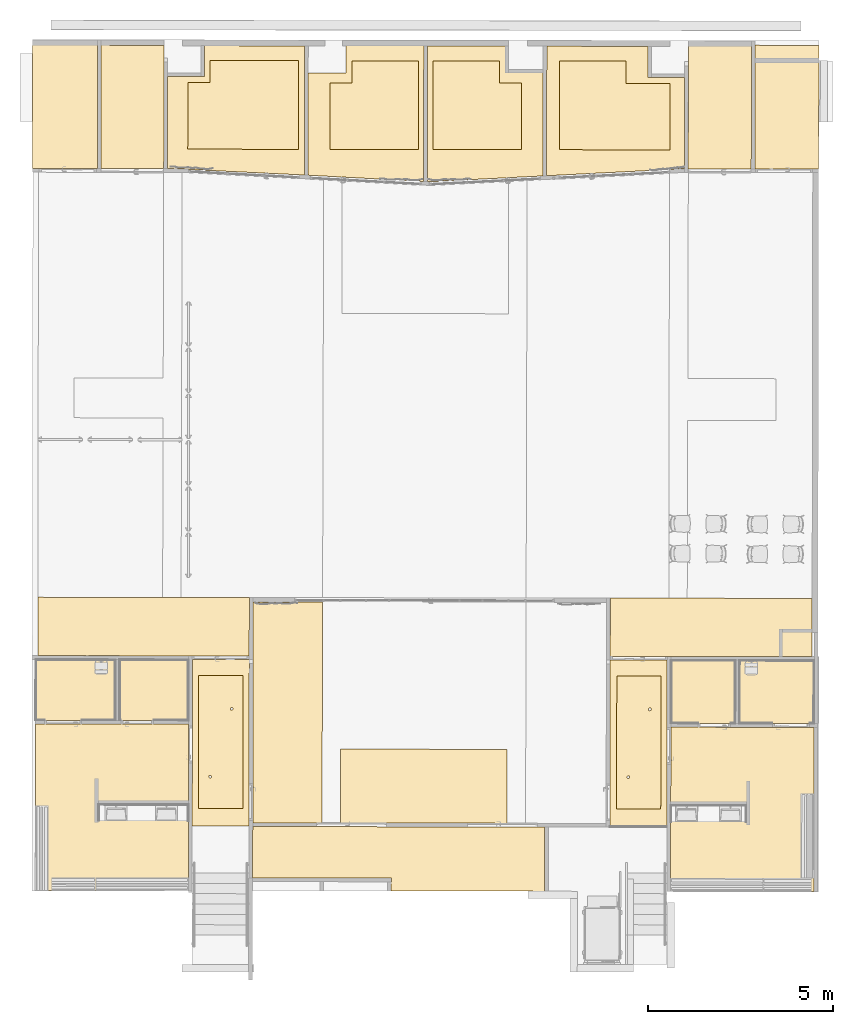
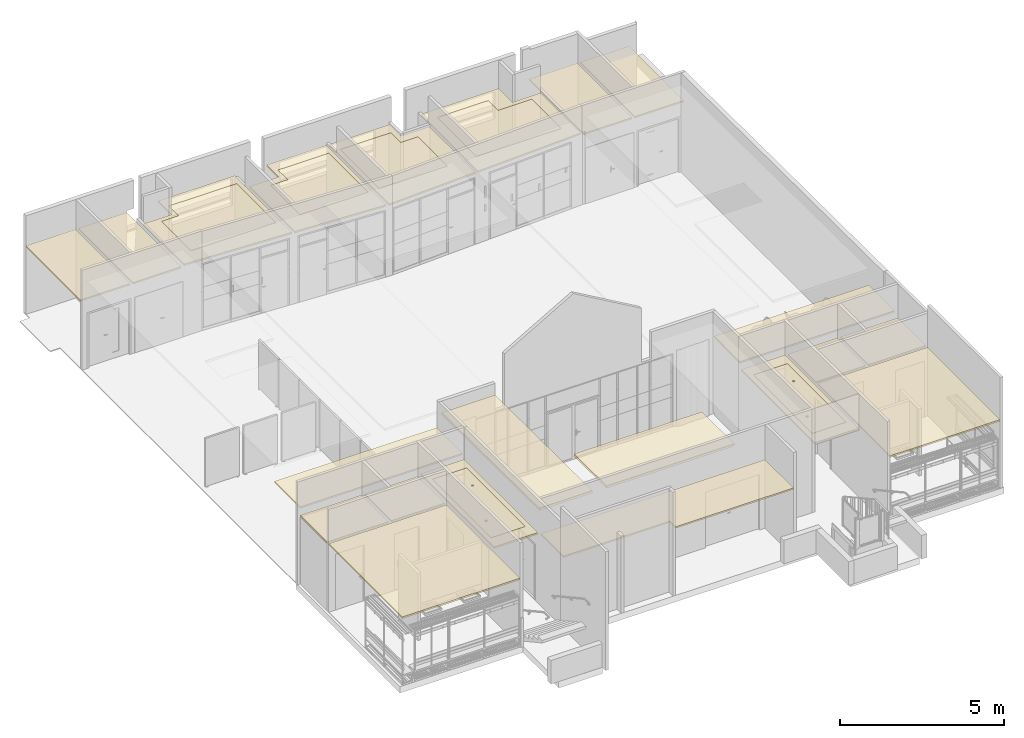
# One storey, part 29 of 43: 23 coverings.
"""IFC2X3 building model written with IfcOpenShell, lengths in metres."""

import ifcopenshell
import ifcopenshell.guid

model = None  # the IFC model being written
_history = None  # IfcOwnerHistory: only IFC2X3 demands one
_inside = {}  # id of a spatial element -> (the spatial element, [elements in it])
_under = {}  # id of a project, library or spatial element -> (it, [spatial elements below it])
_declared = {}  # id of a project -> (the project, [libraries it declares])
_typed = {}  # id of a type object -> (the type object, [elements of that type])
_made_of = {}  # id of a material, layer set ... -> (it, [elements and type objects made of it])


def new_model(schema):
    """Start an empty IFC model of exactly this schema.

    Asked for "IFC4X3", IfcOpenShell would pick the latest addendum, in which some entities
    have other attributes; the version numbers below select the first issue.
    IFC2X3 requires an IfcOwnerHistory on every rooted entity: one is made here for all.
    """
    global model, _history
    if schema == "IFC4X3":
        model = ifcopenshell.file(schema_version=(4, 3, 0, 0))
    else:
        model = ifcopenshell.file(schema=schema)
    _inside.clear()
    _under.clear()
    _declared.clear()
    _typed.clear()
    _made_of.clear()
    _history = None
    if model.schema == "IFC2X3":
        org = make("IfcOrganization", Name="unknown")
        user = make(
            "IfcPersonAndOrganization",
            ThePerson=make("IfcPerson", FamilyName="unknown"),
            TheOrganization=org,
        )
        app = make(
            "IfcApplication",
            ApplicationDeveloper=org,
            Version="unknown",
            ApplicationFullName="unknown",
            ApplicationIdentifier="unknown",
        )
        _history = make(
            "IfcOwnerHistory",
            OwningUser=user,
            OwningApplication=app,
            ChangeAction="ADDED",
            CreationDate=0,
        )
    return model


def make(cls, **values):
    """One entity of the class cls with the attributes given. An attribute that is None is left unset."""
    return model.create_entity(
        cls, **{name: value for name, value in values.items() if value is not None}
    )


def entity(cls, *values):
    """Any entity or typed value of the class cls, its attributes in the order of the schema. None: left unset."""
    e = model.create_entity(cls)
    for i, value in enumerate(values):
        if value is not None:
            e[i] = value
    return e


def rooted(cls, **values):
    """An entity with a GlobalId (a new one), such as an element, a storey or a relation."""
    return make(cls, GlobalId=ifcopenshell.guid.new(), OwnerHistory=_history, **values)


def si_unit(unit_type, name, prefix=None):
    """IfcSIUnit, for example si_unit("LENGTHUNIT", "METRE", prefix="MILLI")."""
    return make("IfcSIUnit", UnitType=unit_type, Prefix=prefix, Name=name)


def converted_unit(unit_type, name, factor, base, dimensions=None, offset=None):
    """IfcConversionBasedUnit, such as the inch: factor (a typed value) times the base unit."""
    return make(
        "IfcConversionBasedUnit"
        if offset is None
        else "IfcConversionBasedUnitWithOffset",
        ConversionOffset=offset,
        Dimensions=None
        if dimensions is None
        else entity("IfcDimensionalExponents", *dimensions),
        UnitType=unit_type,
        Name=name,
        ConversionFactor=make(
            "IfcMeasureWithUnit", ValueComponent=factor, UnitComponent=base
        ),
    )


def derived_unit(unit_type, elements):
    """IfcDerivedUnit: a product of units, each with its exponent."""
    return make(
        "IfcDerivedUnit",
        Elements=[
            make("IfcDerivedUnitElement", Unit=unit, Exponent=power)
            for unit, power in elements
        ],
        UnitType=unit_type,
    )


def assignment(units):
    """IfcUnitAssignment: the units of a project."""
    return None if units is None else make("IfcUnitAssignment", Units=units)


def point(xyz):
    """IfcCartesianPoint."""
    return None if xyz is None else make("IfcCartesianPoint", Coordinates=xyz)


def direction(xyz):
    """IfcDirection."""
    return None if xyz is None else make("IfcDirection", DirectionRatios=xyz)


def frame(location, z_axis=None, x_axis=None):
    """IfcAxis2Placement3D, a coordinate frame: its origin and axes. An axis left out is left unset."""
    return make(
        "IfcAxis2Placement3D",
        Location=point(location),
        Axis=direction(z_axis),
        RefDirection=direction(x_axis),
    )


def frame_2d(location, x_axis=None):
    """IfcAxis2Placement2D, a coordinate frame in the plane: its origin and x axis."""
    return make(
        "IfcAxis2Placement2D", Location=point(location), RefDirection=direction(x_axis)
    )


def origin():
    """The frame at (0, 0, 0) with its axes left unset."""
    return frame((0.0, 0.0, 0.0))


def origin_2d_with_axis():
    """The frame at (0, 0) in the plane with the x axis (1, 0) written out."""
    return frame_2d((0.0, 0.0), x_axis=(1.0, 0.0))


def place(relative_to, where):
    """IfcLocalPlacement: puts the frame where relative to a parent placement (None: the world)."""
    return make(
        "IfcLocalPlacement", PlacementRelTo=relative_to, RelativePlacement=where
    )


def context(
    kind, dimensions, precision=None, world=None, true_north=None, identifier=None
):
    """IfcGeometricRepresentationContext, for example the 3D "Model" context."""
    return make(
        "IfcGeometricRepresentationContext",
        ContextIdentifier=identifier,
        ContextType=kind,
        CoordinateSpaceDimension=dimensions,
        Precision=precision,
        WorldCoordinateSystem=world,
        TrueNorth=true_north,
    )


def subcontext(parent, identifier, kind, view, scale=None):
    """IfcGeometricRepresentationSubContext, for example "Body" below "Model"."""
    return make(
        "IfcGeometricRepresentationSubContext",
        ContextIdentifier=identifier,
        ContextType=kind,
        ParentContext=parent,
        TargetScale=scale,
        TargetView=view,
    )


def project(units=None, contexts=None):
    """IfcProject with its units and contexts."""
    return rooted(
        "IfcProject",
        Name="project",
        RepresentationContexts=contexts,
        UnitsInContext=assignment(units),
    )


def spatial(cls, under=None, at=None, **own):
    """A site, building, storey or space (cls), placed at a placement, below another one or the project."""
    s = rooted(cls, ObjectPlacement=at, **own)
    if under is not None:
        _under.setdefault(under.id(), (under, []))[1].append(s)
    return s


def polyline(points):
    """IfcPolyline through the points."""
    return make("IfcPolyline", Points=[point(p) for p in points])


def circle_curve(where, radius):
    """IfcCircle in the frame where."""
    return make("IfcCircle", Position=where, Radius=radius)


def parameter(value):
    """IfcParameterValue: where a trimmed curve begins or ends, as a parameter of its basis curve."""
    return model.create_entity("IfcParameterValue", value)


def trimmed(basis, trim1, trim2, sense, master):
    """IfcTrimmedCurve: the piece of a basis curve between two trims."""
    return make(
        "IfcTrimmedCurve",
        BasisCurve=basis,
        Trim1=trim1,
        Trim2=trim2,
        SenseAgreement=sense,
        MasterRepresentation=master,
    )


def segment(curve, same_sense, transition):
    """IfcCompositeCurveSegment."""
    return make(
        "IfcCompositeCurveSegment",
        Transition=transition,
        SameSense=same_sense,
        ParentCurve=curve,
    )


def composite_curve(segments, self_intersect=None):
    """IfcCompositeCurve: segments joined end to end."""
    return make("IfcCompositeCurve", Segments=segments, SelfIntersect=self_intersect)


def profile(cls, at=None, kind="AREA", **sizes):
    """A parametric profile (cls). Its sizes go by their IFC names, for example OverallWidth=200.0."""
    return make(cls, ProfileType=kind, Position=at, **sizes)


def rectangle(**sizes):
    """IfcRectangleProfileDef."""
    return profile("IfcRectangleProfileDef", **sizes)


def outline(outer, holes=None, kind="AREA"):
    """IfcArbitraryClosedProfileDef: a profile drawn as a closed curve; with holes, ...WithVoids."""
    if holes is None:
        return make("IfcArbitraryClosedProfileDef", ProfileType=kind, OuterCurve=outer)
    return make(
        "IfcArbitraryProfileDefWithVoids",
        ProfileType=kind,
        OuterCurve=outer,
        InnerCurves=holes,
    )


def extrude(swept, where, along, depth):
    """IfcExtrudedAreaSolid: the profile swept, set in the frame where, extruded along a direction by depth."""
    return make(
        "IfcExtrudedAreaSolid",
        SweptArea=swept,
        Position=where,
        ExtrudedDirection=direction(along),
        Depth=depth,
    )


def faces_of(points, faces, orient=None, outer=None):
    """IfcFace entities. A face is a list of loops; a loop is a list of indices into points, from 0.

    orient and outer hold one flag for each loop. By default every Orientation is true, the
    first loop of a face is its IfcFaceOuterBound and the others are IfcFaceBound.
    """
    made = []
    for i, loops in enumerate(faces):
        bounds = []
        for j, loop in enumerate(loops):
            is_outer = j == 0 if outer is None else outer[i][j]
            bounds.append(
                make(
                    "IfcFaceOuterBound" if is_outer else "IfcFaceBound",
                    Bound=make("IfcPolyLoop", Polygon=[points[k] for k in loop]),
                    Orientation=True if orient is None else orient[i][j],
                )
            )
        made.append(make("IfcFace", Bounds=bounds))
    return made


def faceted_brep(points, faces, orient=None, outer=None, voids=None):
    """IfcFacetedBrep: a solid bounded by flat faces; with voids (closed shells), ...WithVoids."""
    shared = [point(p) for p in points]
    hull = make("IfcClosedShell", CfsFaces=faces_of(shared, faces, orient, outer))
    if voids is None:
        return make("IfcFacetedBrep", Outer=hull)
    return make(
        "IfcFacetedBrepWithVoids",
        Outer=hull,
        Voids=[
            make(cls, CfsFaces=faces_of(shared, fs, o, b)) for cls, fs, o, b in voids
        ],
    )


def shape(context_of_items, identifier, shape_type, items):
    """IfcShapeRepresentation: the items that make up one representation, for example the "Body"."""
    return make(
        "IfcShapeRepresentation",
        ContextOfItems=context_of_items,
        RepresentationIdentifier=identifier,
        RepresentationType=shape_type,
        Items=items,
    )


def material(Name=None, Category=None):
    """IfcMaterial."""
    return make("IfcMaterial", Name=Name, Category=Category)


def layer(
    of_material, thickness, ventilated=None, Name=None, Category=None, Priority=None
):
    """IfcMaterialLayer: one layer of a wall or slab, of a material (None: an air gap)."""
    return make(
        "IfcMaterialLayer",
        Material=of_material,
        LayerThickness=thickness,
        IsVentilated=ventilated,
        Name=Name,
        Category=Category,
        Priority=Priority,
    )


def layer_set(layers, Name=None):
    """IfcMaterialLayerSet."""
    return make("IfcMaterialLayerSet", MaterialLayers=layers, LayerSetName=Name)


def layer_usage(for_layer_set, set_direction, sense, offset, extent=None):
    """IfcMaterialLayerSetUsage: how a layer set lies in its element."""
    return make(
        "IfcMaterialLayerSetUsage",
        ForLayerSet=for_layer_set,
        LayerSetDirection=set_direction,
        DirectionSense=sense,
        OffsetFromReferenceLine=offset,
        ReferenceExtent=extent,
    )


def made_of(thing, what):
    """Note that an element or type object is made of a material, layer set ...; save() writes the relation."""
    if what is not None:
        _made_of.setdefault(what.id(), (what, []))[1].append(thing)
    return thing


def type_object(cls, material=None, **own):
    """A type object (cls), such as IfcWallType, which elements share."""
    return made_of(rooted(cls, **own), material)


def element(
    cls,
    number,
    at=None,
    inside=None,
    cuts=None,
    type_object=None,
    material=None,
    context=None,
    identifier="Body",
    shape_type=None,
    held_by="IfcProductDefinitionShape",
    body=None,
    shapes=None,
    **own,
):
    """One element of the class cls, such as IfcWall. Its Tag is "e" and its number.

    at: its placement. inside: the storey or other place that contains it. cuts: it is an
    opening in that element (IfcRelVoidsElement). A single representation is given by context,
    identifier, shape_type and body (its items); several are given by shapes. held_by: the class
    of the entity that holds the representations. save() writes the other relations.
    """
    e = rooted(cls, Tag="e%d" % number, ObjectPlacement=at, **own)
    if body is not None:
        shapes = [shape(context, identifier, shape_type, body)]
    if shapes is not None:
        e.Representation = make(held_by, Representations=shapes)
    if inside is not None:
        _inside.setdefault(inside.id(), (inside, []))[1].append(e)
    if cuts is not None:
        rooted(
            "IfcRelVoidsElement", RelatingBuildingElement=cuts, RelatedOpeningElement=e
        )
    if type_object is not None:
        _typed.setdefault(type_object.id(), (type_object, []))[1].append(e)
    return made_of(e, material)


def aggregate(whole, parts):
    """IfcRelAggregates: a whole, such as a stair, and the parts it consists of."""
    return rooted("IfcRelAggregates", RelatingObject=whole, RelatedObjects=parts)


def save(model, path):
    """Write the relations noted so far, then the file.

    IfcRelAggregates (storeys below a building ...), IfcRelContainedInSpatialStructure (elements
    in a storey), IfcRelDefinesByType, IfcRelAssociatesMaterial and IfcRelDeclares: one each for
    every whole, place, type object, material and project.
    """
    for whole, parts in _under.values():
        aggregate(whole, parts)
    for where, things in _inside.values():
        rooted(
            "IfcRelContainedInSpatialStructure",
            RelatedElements=things,
            RelatingStructure=where,
        )
    for kind, things in _typed.values():
        rooted("IfcRelDefinesByType", RelatedObjects=things, RelatingType=kind)
    for what, things in _made_of.values():
        rooted("IfcRelAssociatesMaterial", RelatedObjects=things, RelatingMaterial=what)
    for by, libraries in _declared.values():
        rooted("IfcRelDeclares", RelatingContext=by, RelatedDefinitions=libraries)
    model.write(path)


model = new_model("IFC2X3")

# Units and contexts
model_context = context("Model", 3, precision=1e-05, world=origin(), true_north=direction((6.123233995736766e-17, 1.0)))
body_context = subcontext(model_context, "Body", "Model", "MODEL_VIEW")
ifc_project = project(units=[si_unit("LENGTHUNIT", "METRE"), si_unit("AREAUNIT", "SQUARE_METRE"), converted_unit("PLANEANGLEUNIT", "DEGREE", entity("IfcPlaneAngleMeasure", 0.017453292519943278), si_unit("PLANEANGLEUNIT", "RADIAN"), dimensions=[0, 0, 0, 0, 0, 0, 0]), derived_unit("THERMALTRANSMITTANCEUNIT", [(si_unit("MASSUNIT", "GRAM", prefix="KILO"), 1), (si_unit("THERMODYNAMICTEMPERATUREUNIT", "KELVIN"), -1), (si_unit("TIMEUNIT", "SECOND"), -3)])], contexts=[model_context])

# Site, building, storey
site_placement = place(None, frame((1253.6752467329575, 2072.143113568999, 91.49999999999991), z_axis=(0.0, 0.0, 1.0), x_axis=(0.7237211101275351, 0.6900925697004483, 0.0)))
site = spatial("IfcSite", under=ifc_project, at=site_placement, Name="Surface", CompositionType="ELEMENT")
building_placement = place(site_placement, origin())
building = spatial("IfcBuilding", under=site, at=building_placement, CompositionType="ELEMENT")
storey_placement = place(building_placement, frame((0.0, 0.0, -4.629999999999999)))
storey = spatial("IfcBuildingStorey", under=building, at=storey_placement, Name="rez de rue -1.10m", CompositionType="ELEMENT", Elevation=-4.629999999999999)

# Coverings
ifc_material_1 = material(Name="Faux-plafond - Trame 600 x 600")
ifc_layer_1 = layer(ifc_material_1, 0.04)
ifc_layer_2 = layer(ifc_material_1, 0.02)
ifc_layer_set_1 = layer_set([ifc_layer_1, ifc_layer_2], Name="Plafond composé:Dalles 60x60")
ifc_layer_usage_1 = layer_usage(ifc_layer_set_1, "AXIS3", "NEGATIVE", 0.06)
covering_type_1 = type_object("IfcCoveringType", Name="Plafond composé:Dalles 60x60", PredefinedType="CEILING")
covering_1_placement = place(storey_placement, frame((160.07008478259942, -1.8297722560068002, 2.4999999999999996)))
element("IfcCovering", 1, at=covering_1_placement, inside=storey, type_object=covering_type_1, material=ifc_layer_usage_1, Name="Plafond composé:Dalles 60x60", ObjectType="Plafond composé:Dalles 60x60", PredefinedType="CEILING", context=body_context, shape_type="SweptSolid", body=[
    extrude(outline(polyline([(-2.25450197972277, -2.073585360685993), (2.2549915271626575, -2.0735853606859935), (2.25499152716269, 2.074117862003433), (-2.2554810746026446, 2.0730528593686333), (-2.25450197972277, -2.073585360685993)])), frame((3.0570957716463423, 3.062512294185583, 0.0), z_axis=(0.0, 0.0, 1.0), x_axis=(0.6911544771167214, 0.7227070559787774, 0.0)), (0.0, 0.0, 1.0), 0.059999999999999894),
])
ifc_layer_usage_2 = layer_usage(ifc_layer_set_1, "AXIS3", "NEGATIVE", 0.06)
covering_2_placement = place(storey_placement, frame((163.2562221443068, 2.8691031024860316, 2.4999999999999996)))
element("IfcCovering", 2, at=covering_2_placement, inside=storey, type_object=covering_type_1, material=ifc_layer_usage_2, Name="Plafond composé:Dalles 60x60", ObjectType="Plafond composé:Dalles 60x60", PredefinedType="CEILING", context=body_context, shape_type="SweptSolid", body=[
    extrude(rectangle(XDim=2.17028270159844, YDim=1.646236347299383, at=origin_2d_with_axis()), frame((1.3532595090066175, 1.3447083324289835, 0.0), z_axis=(0.0, 0.0, 1.0), x_axis=(0.7232360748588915, -0.6906008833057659, 0.0)), (0.0, 0.0, 1.0), 0.059999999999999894),
])
ifc_layer_usage_3 = layer_usage(ifc_layer_set_1, "AXIS3", "NEGATIVE", 0.06)
covering_3_placement = place(storey_placement, frame((176.98264412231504, -10.247878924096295, 2.4999999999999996)))
element("IfcCovering", 3, at=covering_3_placement, inside=storey, type_object=covering_type_1, material=ifc_layer_usage_3, Name="Plafond composé:Dalles 60x60", ObjectType="Plafond composé:Dalles 60x60", PredefinedType="CEILING", context=body_context, shape_type="SweptSolid", body=[
    extrude(outline(polyline([(-1.0158312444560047, -0.8591744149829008), (1.0156162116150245, -0.8591744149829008), (1.0156162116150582, 0.8591744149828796), (-1.0154011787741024, 0.8591744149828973), (-1.0158312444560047, -0.8591744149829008)])), frame((1.3278152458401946, 1.3227304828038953, 0.0), z_axis=(0.0, 0.0, 1.0), x_axis=(-0.7227070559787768, 0.691154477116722, 0.0)), (0.0, 0.0, 1.0), 0.05999999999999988),
])
ifc_layer_usage_4 = layer_usage(ifc_layer_set_1, "AXIS3", "NEGATIVE", 0.06)
covering_4_placement = place(storey_placement, frame((172.50429845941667, -13.529786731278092, 2.4999999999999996)))
element("IfcCovering", 4, at=covering_4_placement, inside=storey, type_object=covering_type_1, material=ifc_layer_usage_4, Name="Plafond composé:Dalles 60x60", ObjectType="Plafond composé:Dalles 60x60", PredefinedType="CEILING", context=body_context, shape_type="SweptSolid", body=[
    extrude(outline(polyline([(-2.22230039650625, -1.9392123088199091), (2.222758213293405, -1.9392123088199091), (2.2218425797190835, 1.938656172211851), (-2.2223003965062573, 1.9397684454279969), (-2.22230039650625, -1.9392123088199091)])), frame((2.9377517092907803, 2.945652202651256, 0.0), z_axis=(0.0, 0.0, 1.0), x_axis=(-0.691154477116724, -0.7227070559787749, 0.0)), (0.0, 0.0, 1.0), 0.05999999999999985),
])
ifc_layer_usage_5 = layer_usage(ifc_layer_set_1, "AXIS3", "NEGATIVE", 0.06)
covering_5_placement = place(storey_placement, frame((164.89708318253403, 1.5015412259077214, 2.4999999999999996)))
element("IfcCovering", 5, at=covering_5_placement, inside=storey, type_object=covering_type_1, material=ifc_layer_usage_5, Name="Plafond composé:Dalles 60x60", ObjectType="Plafond composé:Dalles 60x60", PredefinedType="CEILING", context=body_context, shape_type="SweptSolid", body=[
    extrude(outline(polyline([(-0.9382877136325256, -0.8250931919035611), (0.9384825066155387, -0.8250931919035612), (0.9384825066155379, 0.8253148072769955), (-0.9386772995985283, 0.8248715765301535), (-0.9382877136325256, -0.8250931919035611)])), frame((1.248374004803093, 1.244937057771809, 0.0), z_axis=(0.0, 0.0, 1.0), x_axis=(0.7227070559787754, -0.6911544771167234, 0.0)), (0.0, 0.0, 1.0), 0.05999999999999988),
])
ifc_layer_usage_6 = layer_usage(ifc_layer_set_1, "AXIS3", "NEGATIVE", 0.06)
covering_6_placement = place(storey_placement, frame((175.64563606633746, -8.775016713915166, 2.4999999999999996)))
element("IfcCovering", 6, at=covering_6_placement, inside=storey, type_object=covering_type_1, material=ifc_layer_usage_6, Name="Plafond composé:Dalles 60x60", ObjectType="Plafond composé:Dalles 60x60", PredefinedType="CEILING", context=body_context, shape_type="SweptSolid", body=[
    extrude(outline(polyline([(-0.8752024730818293, -0.8573985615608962), (0.8747975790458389, -0.8573985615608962), (0.8752024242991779, 0.8571919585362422), (-0.8747975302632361, 0.8576051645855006), (-0.8752024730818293, -0.8573985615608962)])), frame((1.2249635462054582, 1.2244081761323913, 0.0), z_axis=(0.0, 0.0, 1.0), x_axis=(-0.7228702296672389, 0.6909838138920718, 0.0)), (0.0, 0.0, 1.0), 0.059999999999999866),
])
ifc_layer_usage_7 = layer_usage(ifc_layer_set_1, "AXIS3", "NEGATIVE", 0.06)
covering_7_placement = place(storey_placement, frame((176.9098764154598, 10.639652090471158, 2.5500000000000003)))
element("IfcCovering", 7, at=covering_7_placement, inside=storey, type_object=covering_type_1, material=ifc_layer_usage_7, Name="Plafond composé:Dalles 60x60", ObjectType="Plafond composé:Dalles 60x60", PredefinedType="CEILING", context=body_context, shape_type="SweptSolid", body=[
    extrude(outline(polyline([(-1.200292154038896, -1.4001059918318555), (1.79970791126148, -1.4001059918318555), (1.8002084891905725, 0.9990558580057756), (-0.5997912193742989, 1.000703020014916), (-0.599916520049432, 0.4001639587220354), (-1.1999165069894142, 0.40028914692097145), (-1.200292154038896, -1.4001059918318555)])), frame((1.8351123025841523, 2.2556754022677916, 0.0), z_axis=(0.0, 0.0, 1.0), x_axis=(0.7228465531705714, -0.6910085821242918, 0.0)), (0.0, 0.0, 1.0), 0.059999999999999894),
])
ifc_layer_usage_8 = layer_usage(ifc_layer_set_1, "AXIS3", "NEGATIVE", 0.06)
covering_8_placement = place(storey_placement, frame((179.69112841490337, 8.394603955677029, 2.5500000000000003)))
element("IfcCovering", 8, at=covering_8_placement, inside=storey, type_object=covering_type_1, material=ifc_layer_usage_8, Name="Plafond composé:Dalles 60x60", ObjectType="Plafond composé:Dalles 60x60", PredefinedType="CEILING", context=body_context, shape_type="SweptSolid", body=[
    extrude(outline(polyline([(-1.0, -1.4000100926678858), (1.3999999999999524, -1.4000100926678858), (1.39999999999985, 1.0000201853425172), (-0.39999999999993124, 1.0000201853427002), (-0.3999999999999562, 0.399989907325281), (-1.0, 0.3999899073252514), (-1.0, -1.4000100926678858)])), frame((1.6903302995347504, 1.979413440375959, 0.0), z_axis=(0.0, 0.0, 1.0), x_axis=(0.7227070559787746, -0.6911544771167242, 0.0)), (0.0, 0.0, 1.0), 0.059999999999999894),
])
ifc_layer_usage_9 = layer_usage(ifc_layer_set_1, "AXIS3", "NEGATIVE", 0.06)
covering_9_placement = place(storey_placement, frame((181.70613656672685, 6.467568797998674, 2.5500000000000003)))
element("IfcCovering", 9, at=covering_9_placement, inside=storey, type_object=covering_type_1, material=ifc_layer_usage_9, Name="Plafond composé:Dalles 60x60", ObjectType="Plafond composé:Dalles 60x60", PredefinedType="CEILING", context=body_context, shape_type="SweptSolid", body=[
    extrude(outline(polyline([(-1.3999783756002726, -1.0), (0.39998918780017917, -1.0), (0.39998918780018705, -0.4000000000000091), (0.9999891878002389, -0.40000000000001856), (0.9999891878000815, 1.3999999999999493), (-1.399978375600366, 1.4000000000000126), (-1.3999783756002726, -1.0)])), frame((1.979391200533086, 1.7029287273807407, 0.0), z_axis=(0.0, 0.0, 1.0), x_axis=(0.6911544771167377, 0.7227070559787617, 0.0)), (0.0, 0.0, 1.0), 0.05999999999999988),
])
ifc_layer_usage_10 = layer_usage(ifc_layer_set_1, "AXIS3", "NEGATIVE", 0.06)
covering_10_placement = place(storey_placement, frame((184.18331514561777, 3.691930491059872, 2.5500000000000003)))
element("IfcCovering", 10, at=covering_10_placement, inside=storey, type_object=covering_type_1, material=ifc_layer_usage_10, Name="Plafond composé:Dalles 60x60", ObjectType="Plafond composé:Dalles 60x60", PredefinedType="CEILING", context=body_context, shape_type="SweptSolid", body=[
    extrude(outline(polyline([(-1.3984173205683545, -1.3934534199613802), (0.40158384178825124, -1.3934534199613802), (0.40023107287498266, -0.2031022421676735), (1.0002306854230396, -0.202420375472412), (0.9981850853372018, 1.5975784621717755), (-1.4018133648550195, 1.5948509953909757), (-1.3984173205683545, -1.3934534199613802)])), frame((2.1213769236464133, 1.97378242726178, 0.0), z_axis=(0.0, 0.0, 1.0), x_axis=(0.6919753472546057, 0.7219211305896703, 0.0)), (0.0, 0.0, 1.0), 0.059999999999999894),
])
ifc_layer_3 = layer(ifc_material_1, 0.04)
ifc_material_2 = material(Name="OMD_Faux-plafond - Trame 600 x 600NOIR")
ifc_layer_4 = layer(ifc_material_2, 0.02)
ifc_layer_set_2 = layer_set([ifc_layer_3, ifc_layer_4], Name="Plafond composé:Dalles 60x60 NOIR")
ifc_layer_usage_11 = layer_usage(ifc_layer_set_2, "AXIS3", "NEGATIVE", 0.06)
covering_type_2 = type_object("IfcCoveringType", Name="Plafond composé:Dalles 60x60 NOIR", PredefinedType="CEILING")
covering_11_placement = place(storey_placement, frame((172.98248445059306, -9.056167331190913, 2.4999999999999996)))
element("IfcCovering", 11, at=covering_11_placement, inside=storey, type_object=covering_type_2, material=ifc_layer_usage_11, Name="Plafond composé:Dalles 60x60 NOIR", ObjectType="Plafond composé:Dalles 60x60 NOIR", PredefinedType="CEILING", context=body_context, shape_type="SweptSolid", body=[
    extrude(outline(polyline([(-1.8015246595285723, -0.5976373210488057), (1.8016335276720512, -0.5976373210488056), (1.8014157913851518, 0.5976373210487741), (-1.8015246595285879, 0.597637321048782), (-1.8015246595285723, -0.5976373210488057)]), holes=[composite_curve([segment(trimmed(circle_curve(frame_2d((0.9355631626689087, -0.28082355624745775), x_axis=(-0.6911402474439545, 0.7227206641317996)), 0.03666634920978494), [parameter(94.5550586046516)], [parameter(184.5550586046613)], True, "PARAMETER"), False, "CONTINUOUS"), segment(trimmed(circle_curve(frame_2d((0.9355631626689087, -0.28082355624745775), x_axis=(-0.6911402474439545, 0.7227206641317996)), 0.036666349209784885), [parameter(4.555058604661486)], [parameter(94.5550586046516)], True, "PARAMETER"), False, "CONTINUOUS"), segment(trimmed(circle_curve(frame_2d((0.9355631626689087, -0.28082355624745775), x_axis=(-0.6911402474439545, 0.7227206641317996)), 0.036666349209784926), [parameter(274.55505860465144)], [parameter(4.555058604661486)], True, "PARAMETER"), False, "CONTINUOUS"), segment(trimmed(circle_curve(frame_2d((0.9355631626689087, -0.28082355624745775), x_axis=(-0.6911402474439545, 0.7227206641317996)), 0.03666634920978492), [parameter(184.5550586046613)], [parameter(274.55505860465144)], True, "PARAMETER"), False, "CONTINUOUS")], self_intersect=False), composite_curve([segment(trimmed(circle_curve(frame_2d((-0.9021442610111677, 0.29684675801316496), x_axis=(-0.6911402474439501, 0.7227206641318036)), 0.04019819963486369), [parameter(5.597776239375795e-13)], [parameter(180.00000000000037)], True, "PARAMETER"), False, "CONTINUOUS"), segment(trimmed(circle_curve(frame_2d((-0.9021442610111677, 0.29684675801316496), x_axis=(-0.6911402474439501, 0.7227206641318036)), 0.04019819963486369), [parameter(180.00000000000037)], [parameter(5.597776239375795e-13)], True, "PARAMETER"), False, "CONTINUOUS")], self_intersect=False)]), frame((1.6771237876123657, 1.7149556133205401, 0.0), z_axis=(0.0, 0.0, 1.0), x_axis=(-0.6911544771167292, -0.7227070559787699, 0.0)), (0.0, 0.0, 1.0), 0.05999999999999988),
])
ifc_layer_usage_12 = layer_usage(ifc_layer_set_2, "AXIS3", "NEGATIVE", 0.06)
covering_12_placement = place(storey_placement, frame((164.8032910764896, -1.2339732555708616, 2.56)))
element("IfcCovering", 12, at=covering_12_placement, inside=storey, type_object=covering_type_2, material=ifc_layer_usage_12, Name="Plafond composé:Dalles 60x60 NOIR", ObjectType="Plafond composé:Dalles 60x60 NOIR", PredefinedType="CEILING", context=body_context, shape_type="SweptSolid", body=[
    extrude(outline(polyline([(-0.6013025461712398, -1.7996838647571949), (0.5989735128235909, -1.7996838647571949), (0.6017293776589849, 1.7993658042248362), (-0.5994003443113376, 1.8000019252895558), (-0.6013025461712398, -1.7996838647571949)]), holes=[composite_curve([segment(trimmed(circle_curve(frame_2d((0.2852178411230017, 0.9377943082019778), x_axis=(-0.7232360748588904, -0.6906008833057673)), 0.03666634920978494), [parameter(94.55505860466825)], [parameter(184.55505860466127)], True, "PARAMETER"), False, "CONTINUOUS"), segment(trimmed(circle_curve(frame_2d((0.2852178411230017, 0.9377943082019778), x_axis=(-0.7232360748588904, -0.6906008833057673)), 0.036666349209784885), [parameter(4.5550586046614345)], [parameter(94.55505860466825)], True, "PARAMETER"), False, "CONTINUOUS"), segment(trimmed(circle_curve(frame_2d((0.2852178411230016, 0.937794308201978), x_axis=(-0.7232360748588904, -0.6906008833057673)), 0.036666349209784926), [parameter(274.5550586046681)], [parameter(4.555058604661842)], True, "PARAMETER"), False, "CONTINUOUS"), segment(trimmed(circle_curve(frame_2d((0.2852178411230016, 0.937794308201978), x_axis=(-0.7232360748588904, -0.6906008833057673)), 0.03666634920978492), [parameter(184.55505860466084)], [parameter(274.5550586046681)], True, "PARAMETER"), False, "CONTINUOUS")], self_intersect=False), composite_curve([segment(trimmed(circle_curve(frame_2d((-0.29524068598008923, -0.8984132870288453), x_axis=(-0.7232360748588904, -0.6906008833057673)), 0.03666634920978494), [parameter(94.55505860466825)], [parameter(184.55505860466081)], True, "PARAMETER"), False, "CONTINUOUS"), segment(trimmed(circle_curve(frame_2d((-0.29524068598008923, -0.8984132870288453), x_axis=(-0.7232360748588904, -0.6906008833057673)), 0.036666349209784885), [parameter(4.555058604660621)], [parameter(94.55505860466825)], True, "PARAMETER"), False, "CONTINUOUS"), segment(trimmed(circle_curve(frame_2d((-0.29524068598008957, -0.8984132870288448), x_axis=(-0.7232360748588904, -0.6906008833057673)), 0.036666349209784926), [parameter(274.5550586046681)], [parameter(4.555058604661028)], True, "PARAMETER"), False, "CONTINUOUS"), segment(trimmed(circle_curve(frame_2d((-0.29524068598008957, -0.8984132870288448), x_axis=(-0.7232360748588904, -0.6906008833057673)), 0.03666634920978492), [parameter(184.55505860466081)], [parameter(274.5550586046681)], True, "PARAMETER"), False, "CONTINUOUS")], self_intersect=False)]), frame((1.6778360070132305, 1.7157727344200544, 0.0), z_axis=(0.0, 0.0, 1.0), x_axis=(-0.7232360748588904, 0.690600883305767, 0.0)), (0.0, 0.0, 1.0), 0.059999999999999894),
])
ifc_layer_5 = layer(ifc_material_1, 0.04)
ifc_material_3 = material(Name="OMD_Cloison 100mm CF1h")
ifc_layer_6 = layer(ifc_material_3, 0.018)
ifc_layer_set_3 = layer_set([ifc_layer_5, ifc_layer_6], Name="Plafond composé:plafond cf 1h")
ifc_layer_usage_13 = layer_usage(ifc_layer_set_3, "AXIS3", "NEGATIVE", 0.057999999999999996)
covering_type_3 = type_object("IfcCoveringType", Name="Plafond composé:plafond cf 1h", PredefinedType="CEILING")
covering_13_placement = place(storey_placement, frame((164.56706489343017, -8.495111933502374, 2.4999999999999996)))
element("IfcCovering", 13, at=covering_13_placement, inside=storey, type_object=covering_type_3, material=ifc_layer_usage_13, Name="Plafond composé:plafond cf 1h", ObjectType="Plafond composé:plafond cf 1h", PredefinedType="CEILING", context=body_context, shape_type="SweptSolid", body=[
    extrude(outline(polyline([(-3.8854741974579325, 0.34704423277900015), (-3.8854741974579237, -1.0435210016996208), (4.019070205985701, -1.0435210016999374), (4.019481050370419, 0.6964767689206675), (-0.13380143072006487, 0.696476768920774), (-0.1338014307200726, 0.3470442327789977), (-3.8854741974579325, 0.34704423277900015)])), frame((3.047920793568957, 3.2814309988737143, 0.0), z_axis=(0.0, 0.0, -1.0), x_axis=(0.7227070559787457, -0.6911544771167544, 0.0)), (0.0, 0.0, -1.0), 0.05800000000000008),
])
ifc_layer_usage_14 = layer_usage(ifc_layer_set_3, "AXIS3", "NEGATIVE", 0.057999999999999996)
covering_14_placement = place(storey_placement, frame((173.5066061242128, 0.5380451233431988, 2.4999999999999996)))
element("IfcCovering", 14, at=covering_14_placement, inside=storey, type_object=covering_type_3, material=ifc_layer_usage_14, Name="Plafond composé:plafond cf 1h", ObjectType="Plafond composé:plafond cf 1h", PredefinedType="CEILING", context=body_context, shape_type="SweptSolid", body=[
    extrude(outline(polyline([(-0.8762831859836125, -1.6703999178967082), (0.8766775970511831, -1.670399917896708), (0.876677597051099, 1.6703999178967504), (-0.8770720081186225, 1.6703999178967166), (-0.8762831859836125, -1.6703999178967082)])), frame((1.78780042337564, 15.297400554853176, 0.0), z_axis=(0.0, 0.0, 1.0), x_axis=(0.7227070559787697, -0.6911544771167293, 0.0)), (0.0, 0.0, 1.0), 0.058000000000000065),
    extrude(outline(polyline([(-1.6732831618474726, -0.8626522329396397), (1.6734868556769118, -0.8626522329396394), (1.6734868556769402, 0.8625986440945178), (-1.6736905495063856, 0.8627058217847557), (-1.6732831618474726, -0.8626522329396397)])), frame((15.928662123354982, 1.8056296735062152, 0.0), z_axis=(0.0, 0.0, 1.0), x_axis=(-0.691154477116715, -0.7227070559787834, 0.0)), (0.0, 0.0, 1.0), 0.05800000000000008),
    extrude(rectangle(XDim=3.340799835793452, YDim=1.6999999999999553, at=frame_2d((-5.662137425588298e-15, 1.84297022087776e-14), x_axis=(1.0, 0.0))), frame((3.107953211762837, 14.034884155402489, 0.0), z_axis=(0.0, 0.0, 1.0), x_axis=(-0.6911544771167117, -0.7227070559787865, 0.0)), (0.0, 0.0, 1.0), 0.05800000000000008),
    extrude(outline(polyline([(-0.8577133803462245, -1.6732729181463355), (0.8522023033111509, -1.6732729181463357), (0.8522023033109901, 1.6734734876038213), (-0.8466912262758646, 1.6730723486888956), (-0.8577133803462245, -1.6732729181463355)])), frame((14.616906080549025, 3.0598198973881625, 0.0), z_axis=(0.0, 0.0, 1.0), x_axis=(0.7227070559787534, -0.6911544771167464, 0.0)), (0.0, 0.0, 1.0), 0.05800000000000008),
])
ifc_layer_7 = layer(ifc_material_1, 0.04)
ifc_material_4 = material(Name="OMD_Peinture Blanche")
ifc_layer_8 = layer(ifc_material_4, 0.02)
ifc_layer_set_4 = layer_set([ifc_layer_7, ifc_layer_8], Name="Plafond composé:BA 13")
ifc_layer_usage_15 = layer_usage(ifc_layer_set_4, "AXIS3", "NEGATIVE", 0.06)
covering_type_4 = type_object("IfcCoveringType", Name="Plafond composé:BA 13", PredefinedType="CEILING")
covering_15_placement = place(storey_placement, frame((164.3553241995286, -1.6911778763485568, 2.56)))
element("IfcCovering", 15, at=covering_15_placement, inside=storey, type_object=covering_type_4, material=ifc_layer_usage_15, Name="Plafond composé:BA 13", ObjectType="Plafond composé:BA 13", PredefinedType="CEILING", context=body_context, shape_type="SweptSolid", body=[
    extrude(outline(polyline([(-0.7693862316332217, -2.2500837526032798), (0.7693862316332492, -2.2500837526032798), (0.7693862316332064, 2.250265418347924), (-0.7693862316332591, 2.249902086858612), (-0.7693862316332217, -2.2500837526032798)]), holes=[polyline([(0.6003862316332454, -1.8213614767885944), (-0.6003862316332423, -1.8213614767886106), (-0.6003862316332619, 1.7786385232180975), (0.6003862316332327, 1.7786385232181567), (0.6003862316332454, -1.8213614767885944)])]), frame((2.1113218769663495, 2.1577848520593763, 0.0), z_axis=(0.0, 0.0, 1.0), x_axis=(-0.7227070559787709, 0.6911544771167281, 0.0)), (0.0, 0.0, 1.0), 0.05999999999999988),
])
ifc_layer_9 = layer(ifc_material_1, 0.04)
ifc_material_5 = material(Name="OMD_Cloison 70mm")
ifc_layer_10 = layer(ifc_material_5, 0.02)
ifc_layer_set_5 = layer_set([ifc_layer_9, ifc_layer_10], Name="Plafond composé:FP- BA 13")
ifc_layer_usage_16 = layer_usage(ifc_layer_set_5, "AXIS3", "NEGATIVE", 0.06)
covering_type_5 = type_object("IfcCoveringType", Name="Plafond composé:FP- BA 13", PredefinedType="CEILING")
covering_16_placement = place(storey_placement, frame((176.15241236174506, 10.027582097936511, 2.5500000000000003)))
element("IfcCovering", 16, at=covering_16_placement, inside=storey, type_object=covering_type_5, material=ifc_layer_usage_16, Name="Plafond composé:FP- BA 13", ObjectType="Plafond composé:FP- BA 13", PredefinedType="CEILING", context=body_context, shape_type="SweptSolid", body=[
    extrude(outline(polyline([(-1.4801352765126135, -1.9789161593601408), (2.231795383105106, -1.9789161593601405), (2.069031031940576, 1.5145096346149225), (-0.6316719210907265, 1.3880404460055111), (-0.5931733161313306, 0.5506909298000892), (-1.5958459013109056, 0.5045913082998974), (-1.4801352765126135, -1.9789161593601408)]), holes=[polyline([(-0.9558806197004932, -1.4318245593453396), (-1.0396432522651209, 0.3662430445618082), (-0.44029323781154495, 0.39416364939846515), (-0.46821321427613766, 0.993500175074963), (1.9291860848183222, 1.105198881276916), (2.040868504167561, -1.2922011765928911), (-0.9558806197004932, -1.4318245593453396)])]), frame((2.45375006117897, 2.980882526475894, 0.0), z_axis=(0.0, 0.0, 1.0), x_axis=(0.6897568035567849, -0.7240411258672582, 0.0)), (0.0, 0.0, 1.0), 0.059999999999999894),
])
ifc_layer_usage_17 = layer_usage(ifc_layer_set_5, "AXIS3", "NEGATIVE", 0.06)
covering_17_placement = place(storey_placement, frame((178.78139030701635, 7.674710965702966, 2.5500000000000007)))
element("IfcCovering", 17, at=covering_17_placement, inside=storey, type_object=covering_type_5, material=ifc_layer_usage_17, Name="Plafond composé:FP- BA 13", ObjectType="Plafond composé:FP- BA 13", PredefinedType="CEILING", context=body_context, shape_type="SweptSolid", body=[
    extrude(outline(polyline([(-1.2745248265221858, -2.137888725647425), (1.857166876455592, -2.137888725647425), (1.664674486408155, 1.5350848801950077), (-0.4332203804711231, 1.4246421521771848), (-0.3944515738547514, 0.6848892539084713), (-1.4196445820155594, 0.6311611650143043), (-1.2745248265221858, -2.137888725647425)]), holes=[polyline([(-0.24914257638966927, 1.0202315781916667), (1.5483905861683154, 1.1144362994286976), (1.6739984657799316, -1.2823048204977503), (-0.7227124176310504, -1.4079111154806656), (-0.8169187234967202, 0.3896522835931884), (-0.21774100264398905, 0.42105385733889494), (-0.24914257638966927, 1.0202315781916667)])]), frame((2.430192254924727, 2.8176923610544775, 0.0), z_axis=(0.0, 0.0, 1.0), x_axis=(0.6855443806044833, -0.7280308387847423, 0.0)), (0.0, 0.0, 1.0), 0.059999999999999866),
])
ifc_layer_usage_18 = layer_usage(ifc_layer_set_5, "AXIS3", "NEGATIVE", 0.06)
covering_18_placement = place(storey_placement, frame((180.99695247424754, 5.553137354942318, 2.5500000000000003)))
element("IfcCovering", 18, at=covering_18_placement, inside=storey, type_object=covering_type_5, material=ifc_layer_usage_18, Name="Plafond composé:FP- BA 13", ObjectType="Plafond composé:FP- BA 13", PredefinedType="CEILING", context=body_context, shape_type="SweptSolid", body=[
    extrude(outline(polyline([(-1.761508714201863, -1.6180182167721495), (1.051852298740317, -1.6180182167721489), (1.0518522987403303, -0.6241638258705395), (1.7506444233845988, -0.6241638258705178), (1.7501400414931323, 1.5119817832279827), (-1.9201385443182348, 1.5119817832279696), (-1.9228418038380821, 1.4604005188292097), (-1.761508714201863, -1.6180182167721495)]), holes=[polyline([(1.349067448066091, -0.4380182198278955), (0.749067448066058, -0.4380182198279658), (0.7490674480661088, -1.0380182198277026), (-1.0509001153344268, -1.038018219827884), (-1.0509001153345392, 1.361981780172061), (1.3490674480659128, 1.3619817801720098), (1.349067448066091, -0.4380182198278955)])]), frame((2.4198322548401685, 2.3913553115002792, 0.0), z_axis=(0.0, 0.0, 1.0), x_axis=(0.6911544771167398, 0.7227070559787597, 0.0)), (0.0, 0.0, 1.0), 0.05999999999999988),
])
ifc_layer_usage_19 = layer_usage(ifc_layer_set_5, "AXIS3", "NEGATIVE", 0.06)
covering_19_placement = place(storey_placement, frame((183.44455616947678, 3.0510490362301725, 2.5500000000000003)))
element("IfcCovering", 19, at=covering_19_placement, inside=storey, type_object=covering_type_5, material=ifc_layer_usage_19, Name="Plafond composé:FP- BA 13", ObjectType="Plafond composé:FP- BA 13", PredefinedType="CEILING", context=body_context, shape_type="SweptSolid", body=[
    extrude(outline(polyline([(-1.891989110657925, -1.5754496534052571), (0.574513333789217, -1.575449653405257), (0.5745133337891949, -0.5809144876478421), (1.4192168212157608, -0.5809144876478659), (1.4154569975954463, 2.158356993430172), (-2.0917113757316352, 2.1543712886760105), (-1.891989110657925, -1.5754496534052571)]), holes=[polyline([(1.0160951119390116, 0.010263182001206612), (0.41609549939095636, 0.009581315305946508), (0.4174504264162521, -1.1826688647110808), (-1.3825507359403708, -1.1826688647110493), (-1.3859489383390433, 1.807534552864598), (1.0140495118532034, 1.810262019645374), (1.0160951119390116, 0.010263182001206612)])]), frame((3.002698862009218, 2.4560392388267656, 0.0), z_axis=(0.0, 0.0, 1.0), x_axis=(0.6919753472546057, 0.7219211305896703, 0.0)), (0.0, 0.0, 1.0), 0.059999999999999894),
])
ifc_layer_11 = layer(ifc_material_1, 0.04)
ifc_material_6 = material(Name="OMD-plafond coloré")
ifc_layer_12 = layer(ifc_material_6, 0.02)
ifc_layer_set_6 = layer_set([ifc_layer_11, ifc_layer_12], Name="Plafond composé:FP- BA 13 coloré")
ifc_layer_usage_20 = layer_usage(ifc_layer_set_6, "AXIS3", "NEGATIVE", 0.06)
covering_type_6 = type_object("IfcCoveringType", Name="Plafond composé:FP- BA 13 coloré", PredefinedType="CEILING")
covering_20_placement = place(storey_placement, frame((164.51033653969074, -8.892944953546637, 2.7250000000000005)))
element("IfcCovering", 20, at=covering_20_placement, inside=storey, type_object=covering_type_6, material=ifc_layer_usage_20, Name="Plafond composé:FP- BA 13 coloré", ObjectType="Plafond composé:FP- BA 13 coloré", PredefinedType="CEILING", context=body_context, shape_type="SweptSolid", body=[
    extrude(outline(polyline([(-2.861515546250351, -0.7903758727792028), (2.8617009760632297, -0.7903758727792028), (2.861700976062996, 0.7903758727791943), (-2.861886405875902, 0.7903758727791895), (-2.861515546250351, -0.7903758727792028)])), frame((2.6143092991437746, 13.077319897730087, 0.0), z_axis=(0.0, 0.0, 1.0), x_axis=(0.7227070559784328, -0.6911544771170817, 0.0)), (0.0, 0.0, 1.0), 0.059999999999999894),
    extrude(outline(polyline([(-2.7377933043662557, -0.788780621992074), (2.7300153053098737, -0.7887806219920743), (2.7319062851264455, 0.78844470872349), (-2.724128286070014, 0.7891165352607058), (-2.7377933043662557, -0.788780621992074)])), frame((13.722043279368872, 2.456743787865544, 0.0), z_axis=(0.0, 0.0, 1.0), x_axis=(0.7227921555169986, -0.6910654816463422, 0.0)), (0.0, 0.0, 1.0), 0.059999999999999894),
])
ifc_layer_usage_21 = layer_usage(ifc_layer_set_6, "AXIS3", "NEGATIVE", 0.06)
covering_21_placement = place(storey_placement, frame((172.52768177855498, -9.510502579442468, 2.4999999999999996)))
element("IfcCovering", 21, at=covering_21_placement, inside=storey, type_object=covering_type_6, material=ifc_layer_usage_21, Name="Plafond composé:FP- BA 13 coloré", ObjectType="Plafond composé:FP- BA 13 coloré", PredefinedType="CEILING", context=body_context, shape_type="SweptSolid", body=[
    extrude(outline(polyline([(-0.7743664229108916, -2.252709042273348), (0.774366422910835, -2.2527090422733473), (0.7743664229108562, 2.252865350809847), (-0.7743664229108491, 2.252552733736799), (-0.7743664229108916, -2.252709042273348)]), holes=[polyline([(0.590827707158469, 1.786678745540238), (0.5908967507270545, -1.8164679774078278), (-0.6043778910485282, -1.8164908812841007), (-0.604446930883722, 1.7864610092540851), (0.590827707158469, 1.786678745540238)])]), frame((2.1167180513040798, 2.1631425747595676, 0.0), z_axis=(0.0, 0.0, 1.0), x_axis=(-0.7227070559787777, 0.6911544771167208, 0.0)), (0.0, 0.0, 1.0), 0.059999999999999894),
])
ifc_layer_13 = layer(ifc_material_1, 0.04)
ifc_material_7 = material(Name="Faux-plafond - Trame 600 x 1200")
ifc_layer_14 = layer(ifc_material_7, 0.05)
ifc_layer_set_7 = layer_set([ifc_layer_13, ifc_layer_14], Name="Plafond composé:Dalles 60x120")
ifc_layer_usage_22 = layer_usage(ifc_layer_set_7, "AXIS3", "NEGATIVE", 0.09000000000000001)
covering_type_7 = type_object("IfcCoveringType", Name="Plafond composé:Dalles 60x120", PredefinedType="CEILING")
covering_22_placement = place(storey_placement, frame((167.31301477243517, -6.460404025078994, 3.335197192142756)))
element("IfcCovering", 22, at=covering_22_placement, inside=storey, type_object=covering_type_7, material=ifc_layer_usage_22, Name="Plafond composé:Dalles 60x120", ObjectType="Plafond composé:Dalles 60x120", PredefinedType="CEILING", context=body_context, shape_type="Brep", body=[
    faceted_brep([(0.0, 3.1170279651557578, 0.11215995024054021), (3.2593264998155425, 0.0, 0.11109867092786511), (4.64351673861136, 1.4440921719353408, 0.0900050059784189), (1.3848711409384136, 4.5618293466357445, 0.09105591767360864), (0.0, 3.1170279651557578, 0.022154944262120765), (1.3848711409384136, 4.561829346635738, 0.0010509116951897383), (4.64351673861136, 1.4440921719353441, 0.0), (3.2593264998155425, 0.0, 0.021093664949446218)], [[[0, 1, 2, 3]], [[4, 5, 6, 7]], [[1, 0, 4, 7]], [[2, 1, 7, 6]], [[0, 3, 5, 4]], [[3, 2, 6, 5]]]),
])
ifc_layer_usage_23 = layer_usage(ifc_layer_set_7, "AXIS3", "NEGATIVE", 0.09000000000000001)
covering_23_placement = place(storey_placement, frame((165.59663615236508, -2.999665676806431, 3.2932176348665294)))
element("IfcCovering", 23, at=covering_23_placement, inside=storey, type_object=covering_type_7, material=ifc_layer_usage_23, Name="Plafond composé:Dalles 60x120", ObjectType="Plafond composé:Dalles 60x120", PredefinedType="CEILING", context=body_context, shape_type="Brep", body=[
    faceted_brep([(0.0, 1.297486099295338, 0.1535129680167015), (1.3538296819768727, 0.0, 0.15309275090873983), (5.493416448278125, 4.319349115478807, 0.0900050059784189), (4.132576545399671, 5.620776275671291, 0.09044811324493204), (0.0, 1.297486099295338, 0.06350796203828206), (4.132576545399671, 5.620776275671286, 0.00044310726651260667), (5.493416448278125, 4.319349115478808, 0.0), (1.3538296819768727, 0.0, 0.06308774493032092)], [[[0, 1, 2, 3]], [[4, 5, 6, 7]], [[1, 0, 4, 7]], [[2, 1, 7, 6]], [[3, 2, 6, 5]], [[0, 3, 5, 4]]]),
])

save(model, "model.ifc")
